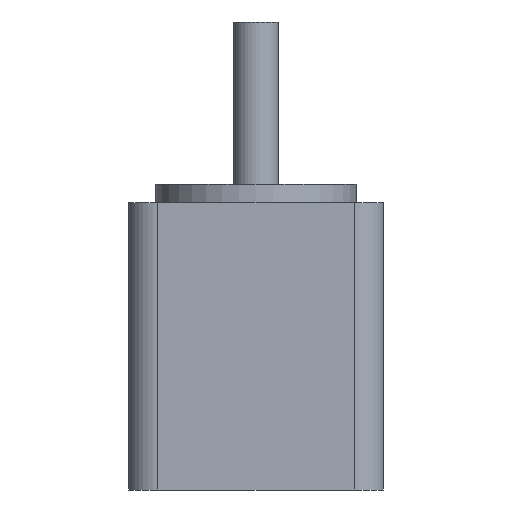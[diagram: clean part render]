
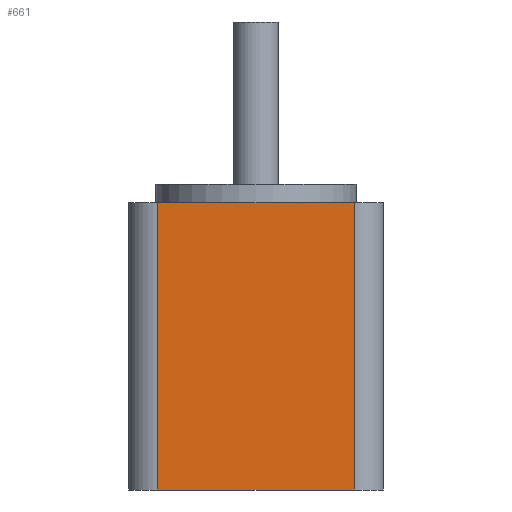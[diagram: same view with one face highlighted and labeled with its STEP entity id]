
A CAD part, front view. The second image highlights one B-rep face of the part: STEP entity #661.
In plain terms, the highlighted planar face has unit normal (0, -1, 0).
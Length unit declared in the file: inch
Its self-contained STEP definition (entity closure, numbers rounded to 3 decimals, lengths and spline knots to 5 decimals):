
#603=CARTESIAN_POINT('',(-0.425,-0.55,0.0));
#604=VERTEX_POINT('',#603);
#612=CARTESIAN_POINT('',(-0.425,-0.55,1.24));
#613=VERTEX_POINT('',#612);
#614=CARTESIAN_POINT('',(-0.425,-0.55,1.24));
#615=DIRECTION('',(0.0,0.0,-1.0));
#616=VECTOR('',#615,1.24);
#617=LINE('',#614,#616);
#618=EDGE_CURVE('',#613,#604,#617,.T.);
#631=CARTESIAN_POINT('',(-0.425,-0.55,1.24));
#632=DIRECTION('',(0.0,-1.0,0.0));
#633=DIRECTION('',(0.0,0.0,-1.0));
#634=AXIS2_PLACEMENT_3D('',#631,#632,#633);
#635=PLANE('',#634);
#636=CARTESIAN_POINT('',(0.425,-0.55,0.0));
#637=VERTEX_POINT('',#636);
#638=CARTESIAN_POINT('',(-0.425,-0.55,0.0));
#639=DIRECTION('',(1.0,0.0,0.0));
#640=VECTOR('',#639,0.85);
#641=LINE('',#638,#640);
#642=EDGE_CURVE('',#604,#637,#641,.T.);
#643=ORIENTED_EDGE('',*,*,#642,.T.);
#644=CARTESIAN_POINT('',(0.425,-0.55,1.24));
#645=VERTEX_POINT('',#644);
#646=CARTESIAN_POINT('',(0.425,-0.55,1.24));
#647=DIRECTION('',(0.0,0.0,-1.0));
#648=VECTOR('',#647,1.24);
#649=LINE('',#646,#648);
#650=EDGE_CURVE('',#645,#637,#649,.T.);
#651=ORIENTED_EDGE('',*,*,#650,.F.);
#652=CARTESIAN_POINT('',(-0.425,-0.55,1.24));
#653=DIRECTION('',(1.0,0.0,0.0));
#654=VECTOR('',#653,0.85);
#655=LINE('',#652,#654);
#656=EDGE_CURVE('',#613,#645,#655,.T.);
#657=ORIENTED_EDGE('',*,*,#656,.F.);
#658=ORIENTED_EDGE('',*,*,#618,.T.);
#659=EDGE_LOOP('',(#643,#651,#657,#658));
#660=FACE_OUTER_BOUND('',#659,.T.);
#661=ADVANCED_FACE('',(#660),#635,.T.);
